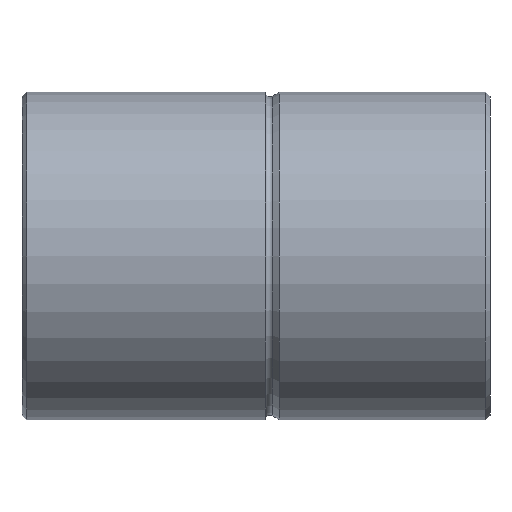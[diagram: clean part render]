
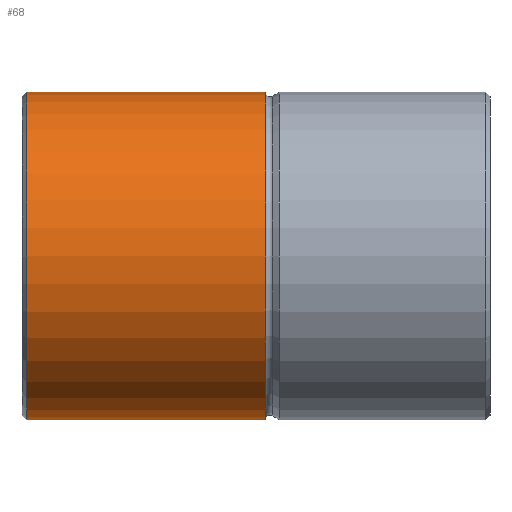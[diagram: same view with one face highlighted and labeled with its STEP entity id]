
A CAD part, front view. The second image highlights one B-rep face of the part: STEP entity #68.
In plain terms, the highlighted cylindrical face has radius 35.02 mm (diameter 70.04 mm), a full revolution.
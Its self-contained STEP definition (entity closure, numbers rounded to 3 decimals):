
#68 = ADVANCED_FACE( '', ( #146, #147, #148 ), #149, .T. );
#146 = FACE_OUTER_BOUND( '', #219, .T. );
#147 = FACE_BOUND( '', #220, .T. );
#148 = FACE_OUTER_BOUND( '', #221, .T. );
#149 = CYLINDRICAL_SURFACE( '', #222, 35.02 );
#219 = EDGE_LOOP( '', ( #314 ) );
#220 = EDGE_LOOP( '', ( #315 ) );
#221 = EDGE_LOOP( '', ( #316 ) );
#222 = AXIS2_PLACEMENT_3D( '', #317, #318, #319 );
#314 = ORIENTED_EDGE( '', *, *, #356, .T. );
#315 = ORIENTED_EDGE( '', *, *, #339, .T. );
#316 = ORIENTED_EDGE( '', *, *, #350, .F. );
#317 = CARTESIAN_POINT( '', ( 0., 0., 0. ) );
#318 = DIRECTION( '', ( -1., 0., 0. ) );
#319 = DIRECTION( '', ( 0., 0., -1. ) );
#339 = EDGE_CURVE( '', #380, #380, #381, .T. );
#350 = EDGE_CURVE( '', #397, #397, #398, .T. );
#356 = EDGE_CURVE( '', #405, #405, #406, .T. );
#380 = VERTEX_POINT( '', #430 );
#381 = B_SPLINE_CURVE_WITH_KNOTS( '', 3, ( #431, #432, #433, #434, #435, #436, #437, #438, #439, #440, #441, #442, #443, #444, #445, #446, #447, #448, #449, #450, #451, #452, #453, #454, #455, #456, #457, #458, #459, #460, #461, #462, #463, #464, #465, #466, #467, #468, #469, #470, #471, #472, #473, #474, #475, #476, #477, #478, #479, #480, #481, #482, #483, #484, #485, #486, #487, #488, #489, #490, #491, #492 ), .UNSPECIFIED., .T., .F., ( 2, 2, 2, 2, 2, 2, 2, 2, 2, 2, 2, 2, 2, 2, 2, 2, 2, 2, 2, 2, 2, 2, 2, 2, 2, 2, 2, 2, 2, 2, 2, 2, 2 ), ( -0.001, 0., 0., 0.001, 0.001, 0.002, 0.002, 0.003, 0.003, 0.004, 0.004, 0.005, 0.005, 0.006, 0.006, 0.007, 0.007, 0.008, 0.008, 0.009, 0.01, 0.01, 0.011, 0.011, 0.012, 0.012, 0.013, 0.013, 0.014, 0.014, 0.015, 0.016, 0.016 ), .UNSPECIFIED. );
#397 = VERTEX_POINT( '', #557 );
#398 = CIRCLE( '', #558, 35.02 );
#405 = VERTEX_POINT( '', #565 );
#406 = CIRCLE( '', #566, 35.02 );
#430 = CARTESIAN_POINT( '', ( -90., 34.931, -2.5 ) );
#431 = CARTESIAN_POINT( '', ( -90.33, 34.931, -2.5 ) );
#432 = CARTESIAN_POINT( '', ( -89.835, 34.931, -2.5 ) );
#433 = CARTESIAN_POINT( '', ( -89.672, 34.932, -2.484 ) );
#434 = CARTESIAN_POINT( '', ( -89.353, 34.936, -2.42 ) );
#435 = CARTESIAN_POINT( '', ( -89.194, 34.94, -2.372 ) );
#436 = CARTESIAN_POINT( '', ( -88.891, 34.948, -2.247 ) );
#437 = CARTESIAN_POINT( '', ( -88.748, 34.953, -2.17 ) );
#438 = CARTESIAN_POINT( '', ( -88.476, 34.964, -1.988 ) );
#439 = CARTESIAN_POINT( '', ( -88.347, 34.97, -1.883 ) );
#440 = CARTESIAN_POINT( '', ( -88.117, 34.981, -1.652 ) );
#441 = CARTESIAN_POINT( '', ( -88.013, 34.987, -1.526 ) );
#442 = CARTESIAN_POINT( '', ( -87.831, 34.998, -1.253 ) );
#443 = CARTESIAN_POINT( '', ( -87.753, 35.003, -1.108 ) );
#444 = CARTESIAN_POINT( '', ( -87.628, 35.011, -0.807 ) );
#445 = CARTESIAN_POINT( '', ( -87.58, 35.014, -0.649 ) );
#446 = CARTESIAN_POINT( '', ( -87.516, 35.019, -0.327 ) );
#447 = CARTESIAN_POINT( '', ( -87.5, 35.02, -0.164 ) );
#448 = CARTESIAN_POINT( '', ( -87.5, 35.02, 0.162 ) );
#449 = CARTESIAN_POINT( '', ( -87.516, 35.019, 0.327 ) );
#450 = CARTESIAN_POINT( '', ( -87.58, 35.014, 0.648 ) );
#451 = CARTESIAN_POINT( '', ( -87.627, 35.011, 0.804 ) );
#452 = CARTESIAN_POINT( '', ( -87.752, 35.003, 1.107 ) );
#453 = CARTESIAN_POINT( '', ( -87.831, 34.998, 1.253 ) );
#454 = CARTESIAN_POINT( '', ( -88.011, 34.987, 1.524 ) );
#455 = CARTESIAN_POINT( '', ( -88.115, 34.981, 1.65 ) );
#456 = CARTESIAN_POINT( '', ( -88.348, 34.969, 1.884 ) );
#457 = CARTESIAN_POINT( '', ( -88.474, 34.964, 1.987 ) );
#458 = CARTESIAN_POINT( '', ( -88.745, 34.953, 2.168 ) );
#459 = CARTESIAN_POINT( '', ( -88.891, 34.948, 2.247 ) );
#460 = CARTESIAN_POINT( '', ( -89.194, 34.94, 2.372 ) );
#461 = CARTESIAN_POINT( '', ( -89.35, 34.936, 2.419 ) );
#462 = CARTESIAN_POINT( '', ( -89.67, 34.932, 2.484 ) );
#463 = CARTESIAN_POINT( '', ( -89.836, 34.931, 2.5 ) );
#464 = CARTESIAN_POINT( '', ( -90.162, 34.931, 2.5 ) );
#465 = CARTESIAN_POINT( '', ( -90.324, 34.932, 2.484 ) );
#466 = CARTESIAN_POINT( '', ( -90.647, 34.936, 2.42 ) );
#467 = CARTESIAN_POINT( '', ( -90.805, 34.94, 2.372 ) );
#468 = CARTESIAN_POINT( '', ( -91.256, 34.952, 2.186 ) );
#469 = CARTESIAN_POINT( '', ( -91.535, 34.964, 2. ) );
#470 = CARTESIAN_POINT( '', ( -91.881, 34.981, 1.654 ) );
#471 = CARTESIAN_POINT( '', ( -91.987, 34.987, 1.526 ) );
#472 = CARTESIAN_POINT( '', ( -92.169, 34.998, 1.254 ) );
#473 = CARTESIAN_POINT( '', ( -92.246, 35.003, 1.111 ) );
#474 = CARTESIAN_POINT( '', ( -92.371, 35.011, 0.808 ) );
#475 = CARTESIAN_POINT( '', ( -92.42, 35.014, 0.649 ) );
#476 = CARTESIAN_POINT( '', ( -92.483, 35.019, 0.33 ) );
#477 = CARTESIAN_POINT( '', ( -92.5, 35.02, 0.167 ) );
#478 = CARTESIAN_POINT( '', ( -92.5, 35.02, -0.163 ) );
#479 = CARTESIAN_POINT( '', ( -92.484, 35.019, -0.325 ) );
#480 = CARTESIAN_POINT( '', ( -92.421, 35.014, -0.645 ) );
#481 = CARTESIAN_POINT( '', ( -92.373, 35.011, -0.804 ) );
#482 = CARTESIAN_POINT( '', ( -92.248, 35.003, -1.107 ) );
#483 = CARTESIAN_POINT( '', ( -92.171, 34.998, -1.25 ) );
#484 = CARTESIAN_POINT( '', ( -91.99, 34.987, -1.522 ) );
#485 = CARTESIAN_POINT( '', ( -91.884, 34.981, -1.651 ) );
#486 = CARTESIAN_POINT( '', ( -91.654, 34.97, -1.882 ) );
#487 = CARTESIAN_POINT( '', ( -91.528, 34.964, -1.985 ) );
#488 = CARTESIAN_POINT( '', ( -91.255, 34.953, -2.168 ) );
#489 = CARTESIAN_POINT( '', ( -91.11, 34.948, -2.246 ) );
#490 = CARTESIAN_POINT( '', ( -90.659, 34.936, -2.434 ) );
#491 = CARTESIAN_POINT( '', ( -90.33, 34.931, -2.5 ) );
#492 = CARTESIAN_POINT( '', ( -89.835, 34.931, -2.5 ) );
#557 = CARTESIAN_POINT( '', ( -48., 0., -35.02 ) );
#558 = AXIS2_PLACEMENT_3D( '', #605, #606, #607 );
#565 = CARTESIAN_POINT( '', ( -99., 0., -35.02 ) );
#566 = AXIS2_PLACEMENT_3D( '', #611, #612, #613 );
#605 = CARTESIAN_POINT( '', ( -48., 0., 0. ) );
#606 = DIRECTION( '', ( 1., 0., 0. ) );
#607 = DIRECTION( '', ( 0., 0., -1. ) );
#611 = CARTESIAN_POINT( '', ( -99., 0., 0. ) );
#612 = DIRECTION( '', ( 1., 0., 0. ) );
#613 = DIRECTION( '', ( 0., 0., -1. ) );
